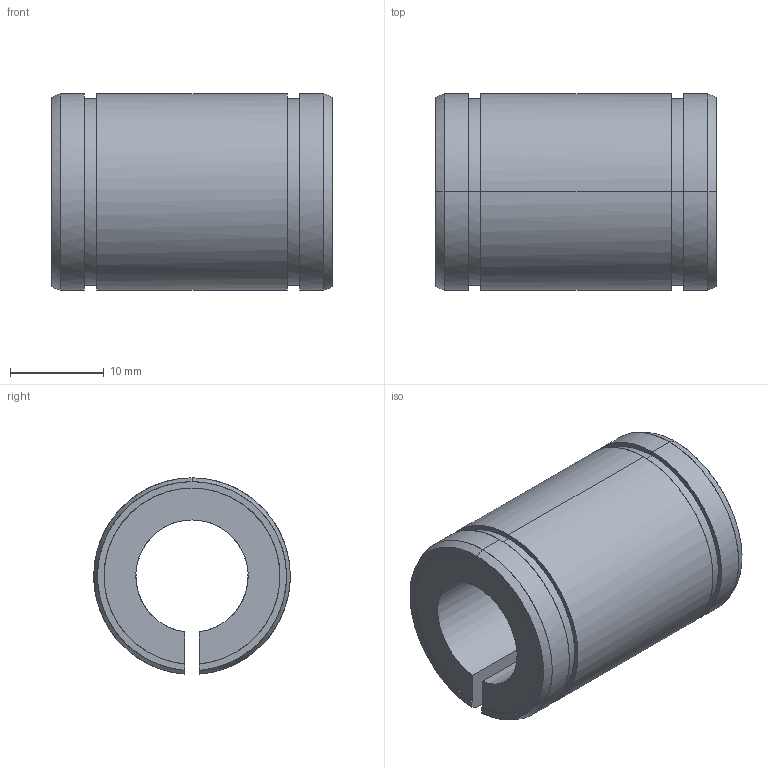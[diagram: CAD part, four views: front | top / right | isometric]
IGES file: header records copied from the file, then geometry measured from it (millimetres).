
Global section: file name: No Iges File Name specified; native system: AutoDesk Inventor R10; preprocessor: AutoDesk Inventor Iges Exporter R10; author: No Author specified; organization: No Organization specified; date: 20101208.095829; units: millimetre
Bounding box: 30 x 20.99 x 20.97 mm (x, y, z)
Surface area: 3819.5 mm2 (no closed solid volume)
Topology: 0 solids, 0 shells, 30 faces, 252 edges, 252 vertices
Faces by surface type: bspline 30
